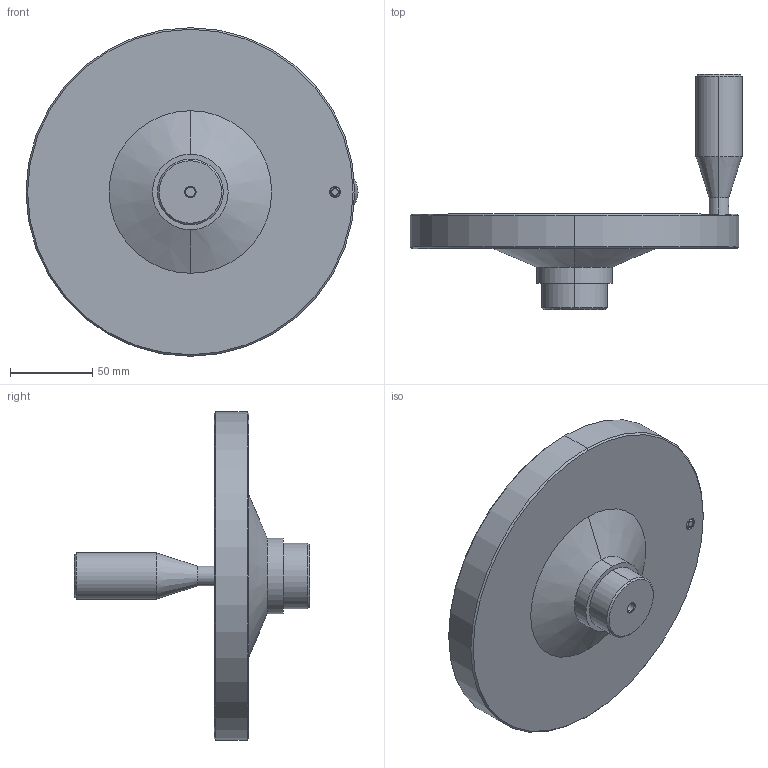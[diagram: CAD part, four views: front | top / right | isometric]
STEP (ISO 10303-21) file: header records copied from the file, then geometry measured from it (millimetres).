
FILE_DESCRIPTION (( 'STEP AP203' ), '1' );
FILE_NAME ('77640.W0200.step', '2019-08-13T15:13:38', ( '' ), ( '' ), 'SwSTEP 2.0', 'SolidWorks 2017', '' );
FILE_SCHEMA (( 'CONFIG_CONTROL_DESIGN' ));
Length unit declared in the file: millimetre
Products named in the file (3): 77640.W0200; Part2_77640.W0200; Part1_77640.W0200
Assembly tree (2 placements, depth 2):
  77640.W0200
    Part1_77640.W0200
    Part2_77640.W0200
Bounding box: 202 x 143 x 200 mm (x, y, z)
Volume: 596391.3 mm3; surface area: 90756.6 mm2
Topology: 2 solids, 2 shells, 59 faces, 116 edges, 68 vertices
Faces by surface type: cone 24, cylinder 24, plane 11
Entity records: 1845 total; most frequent: DIRECTION 308, CARTESIAN_POINT 276, ORIENTED_EDGE 232, AXIS2_PLACEMENT_3D 130, EDGE_CURVE 116, EDGE_LOOP 68, VERTEX_POINT 68, CIRCLE 66
